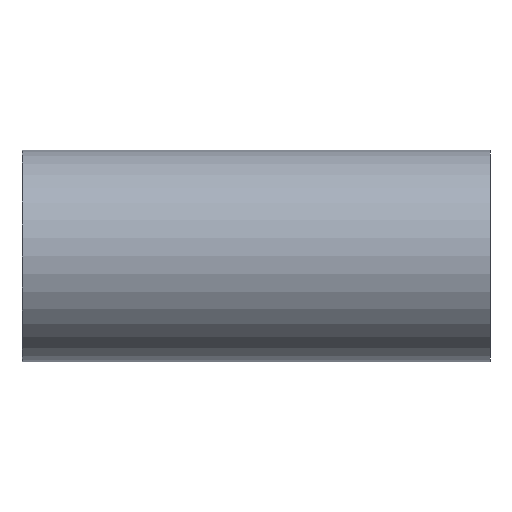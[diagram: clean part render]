
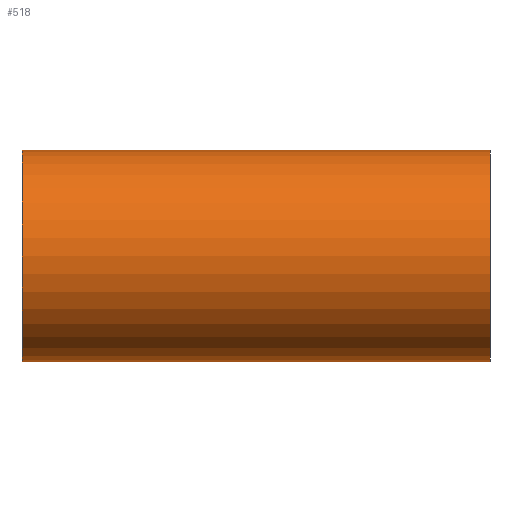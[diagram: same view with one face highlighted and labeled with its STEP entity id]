
A CAD part, front view. The second image highlights one B-rep face of the part: STEP entity #518.
In plain terms, the highlighted cylindrical face has radius 19.05 mm (diameter 38.1 mm), a partial arc.
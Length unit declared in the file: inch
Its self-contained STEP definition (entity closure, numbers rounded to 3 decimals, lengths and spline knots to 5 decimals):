
#3 = VERTEX_POINT ( 'NONE', #432 ) ;
#25 = DIRECTION ( 'NONE',  ( 0., 0., 1. ) ) ;
#35 = CARTESIAN_POINT ( 'NONE',  ( -1.656, 0., -0.75 ) ) ;
#56 = VECTOR ( 'NONE', #400, 39.37008 ) ;
#72 = CARTESIAN_POINT ( 'NONE',  ( 1.656, 0., 0. ) ) ;
#79 = CARTESIAN_POINT ( 'NONE',  ( 1.656, 0., 0.75 ) ) ;
#82 = LINE ( 'NONE', #441, #189 ) ;
#90 = VERTEX_POINT ( 'NONE', #79 ) ;
#138 = DIRECTION ( 'NONE',  ( -1., 0., 0. ) ) ;
#160 = DIRECTION ( 'NONE',  ( -1., 0., 0. ) ) ;
#175 = EDGE_CURVE ( 'NONE', #90, #3, #503, .T. ) ;
#189 = VECTOR ( 'NONE', #138, 39.37008 ) ;
#192 = DIRECTION ( 'NONE',  ( 1., 0., 0. ) ) ;
#221 = VERTEX_POINT ( 'NONE', #35 ) ;
#247 = ORIENTED_EDGE ( 'NONE', *, *, #175, .F. ) ;
#267 = DIRECTION ( 'NONE',  ( 0., 0., -1. ) ) ;
#268 = DIRECTION ( 'NONE',  ( 1., 0., 0. ) ) ;
#286 = AXIS2_PLACEMENT_3D ( 'NONE', #72, #160, #25 ) ;
#314 = LINE ( 'NONE', #445, #56 ) ;
#346 = VERTEX_POINT ( 'NONE', #380 ) ;
#348 = CARTESIAN_POINT ( 'NONE',  ( 1.656, 0., 0. ) ) ;
#351 = EDGE_CURVE ( 'NONE', #346, #221, #403, .T. ) ;
#357 = AXIS2_PLACEMENT_3D ( 'NONE', #461, #192, #499 ) ;
#362 = ORIENTED_EDGE ( 'NONE', *, *, #566, .F. ) ;
#364 = FACE_OUTER_BOUND ( 'NONE', #450, .T. ) ;
#380 = CARTESIAN_POINT ( 'NONE',  ( -1.656, 0., 0.75 ) ) ;
#400 = DIRECTION ( 'NONE',  ( -1., 0., 0. ) ) ;
#403 = CIRCLE ( 'NONE', #357, 0.75 ) ;
#428 = ORIENTED_EDGE ( 'NONE', *, *, #581, .T. ) ;
#432 = CARTESIAN_POINT ( 'NONE',  ( 1.656, 0., -0.75 ) ) ;
#441 = CARTESIAN_POINT ( 'NONE',  ( 1.656, 0., -0.75 ) ) ;
#445 = CARTESIAN_POINT ( 'NONE',  ( 1.656, 0., 0.75 ) ) ;
#450 = EDGE_LOOP ( 'NONE', ( #362, #247, #428, #562 ) ) ;
#453 = CYLINDRICAL_SURFACE ( 'NONE', #286, 0.75 ) ;
#461 = CARTESIAN_POINT ( 'NONE',  ( -1.656, 0., 0. ) ) ;
#499 = DIRECTION ( 'NONE',  ( 0., 0., -1. ) ) ;
#503 = CIRCLE ( 'NONE', #517, 0.75 ) ;
#517 = AXIS2_PLACEMENT_3D ( 'NONE', #348, #268, #267 ) ;
#518 = ADVANCED_FACE ( 'NONE', ( #364 ), #453, .T. ) ;
#562 = ORIENTED_EDGE ( 'NONE', *, *, #351, .T. ) ;
#566 = EDGE_CURVE ( 'NONE', #3, #221, #82, .T. ) ;
#581 = EDGE_CURVE ( 'NONE', #90, #346, #314, .T. ) ;
